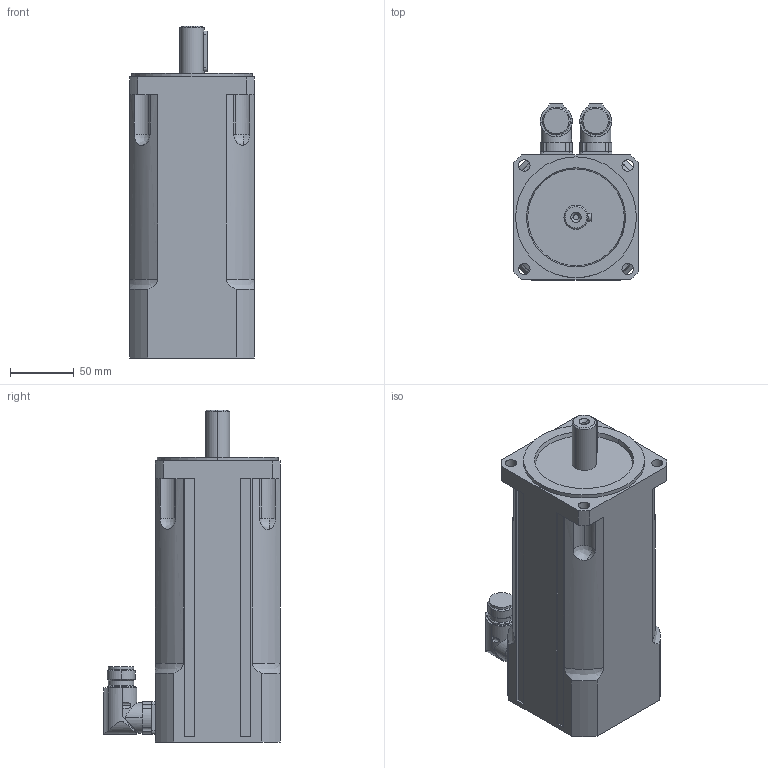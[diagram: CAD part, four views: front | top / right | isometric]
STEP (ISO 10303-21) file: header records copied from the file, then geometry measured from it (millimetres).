
FILE_DESCRIPTION(('STEP AP203'),'2;1');
FILE_NAME('MT4-0750.stp','2006-08-28T20:12:28',(''),(''),'2005.2.102','THINKDESIGN','');
FILE_SCHEMA(('CONFIG_CONTROL_DESIGN'));
Length unit declared in the file: millimetre
Bounding box: 98 x 138.5 x 261 mm (x, y, z)
Volume: 2022798.1 mm3; surface area: 126057.6 mm2
Topology: 3 solids, 3 shells, 247 faces, 643 edges, 416 vertices
Faces by surface type: cylinder 110, plane 83, bspline 54
Entity records: 9366 total; most frequent: CARTESIAN_POINT 3252, ORIENTED_EDGE 1286, DIRECTION 1251, EDGE_CURVE 643, AXIS2_PLACEMENT_3D 485, VERTEX_POINT 416, CIRCLE 292, EDGE_LOOP 285
